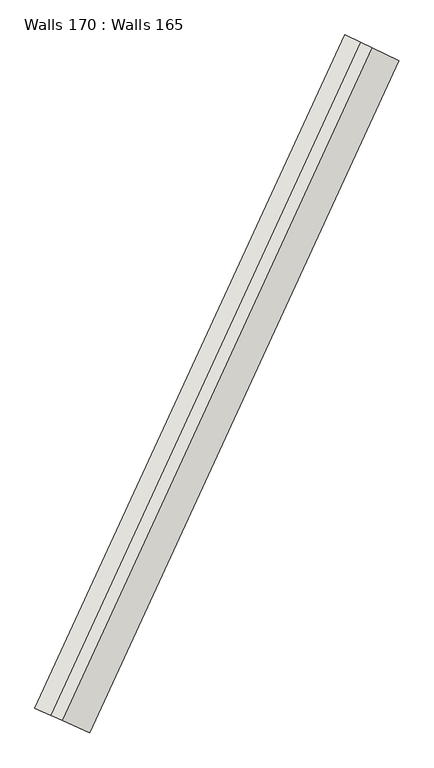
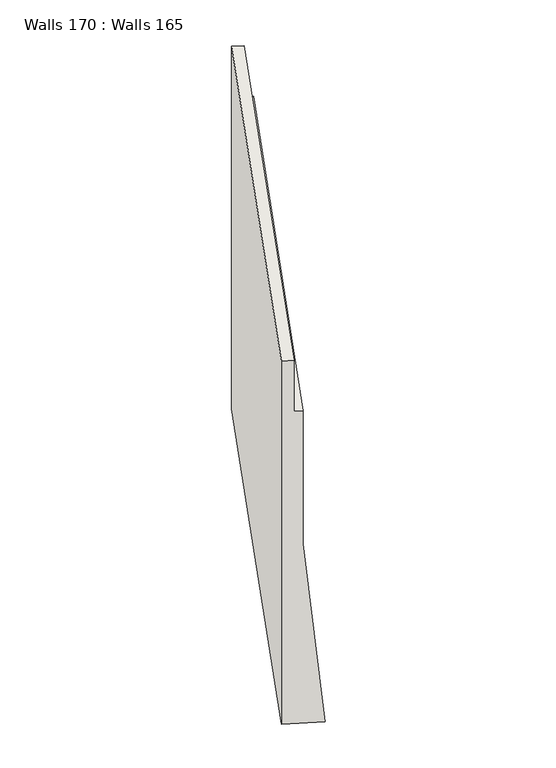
"""IFC4 building model written with IfcOpenShell, lengths in millimetres: wall geometry, Walls 170 : Walls 165."""

import ifcopenshell
import ifcopenshell.guid

model = None  # the IFC model being written
_history = None  # IfcOwnerHistory: only IFC2X3 demands one
_inside = {}  # id of a spatial element -> (the spatial element, [elements in it])
_under = {}  # id of a project, library or spatial element -> (it, [spatial elements below it])
_declared = {}  # id of a project -> (the project, [libraries it declares])
_typed = {}  # id of a type object -> (the type object, [elements of that type])
_made_of = {}  # id of a material, layer set ... -> (it, [elements and type objects made of it])


def new_model(schema):
    """Start an empty IFC model of exactly this schema.

    Asked for "IFC4X3", IfcOpenShell would pick the latest addendum, in which some entities
    have other attributes; the version numbers below select the first issue.
    IFC2X3 requires an IfcOwnerHistory on every rooted entity: one is made here for all.
    """
    global model, _history
    if schema == "IFC4X3":
        model = ifcopenshell.file(schema_version=(4, 3, 0, 0))
    else:
        model = ifcopenshell.file(schema=schema)
    _inside.clear()
    _under.clear()
    _declared.clear()
    _typed.clear()
    _made_of.clear()
    _history = None
    if model.schema == "IFC2X3":
        org = make("IfcOrganization", Name="unknown")
        user = make(
            "IfcPersonAndOrganization",
            ThePerson=make("IfcPerson", FamilyName="unknown"),
            TheOrganization=org,
        )
        app = make(
            "IfcApplication",
            ApplicationDeveloper=org,
            Version="unknown",
            ApplicationFullName="unknown",
            ApplicationIdentifier="unknown",
        )
        _history = make(
            "IfcOwnerHistory",
            OwningUser=user,
            OwningApplication=app,
            ChangeAction="ADDED",
            CreationDate=0,
        )
    return model


def make(cls, **values):
    """One entity of the class cls with the attributes given. An attribute that is None is left unset."""
    return model.create_entity(
        cls, **{name: value for name, value in values.items() if value is not None}
    )


def rooted(cls, **values):
    """An entity with a GlobalId (a new one), such as an element, a storey or a relation."""
    return make(cls, GlobalId=ifcopenshell.guid.new(), OwnerHistory=_history, **values)


def si_unit(unit_type, name, prefix=None):
    """IfcSIUnit, for example si_unit("LENGTHUNIT", "METRE", prefix="MILLI")."""
    return make("IfcSIUnit", UnitType=unit_type, Prefix=prefix, Name=name)


def assignment(units):
    """IfcUnitAssignment: the units of a project."""
    return None if units is None else make("IfcUnitAssignment", Units=units)


def point(xyz):
    """IfcCartesianPoint."""
    return None if xyz is None else make("IfcCartesianPoint", Coordinates=xyz)


def direction(xyz):
    """IfcDirection."""
    return None if xyz is None else make("IfcDirection", DirectionRatios=xyz)


def frame(location, z_axis=None, x_axis=None):
    """IfcAxis2Placement3D, a coordinate frame: its origin and axes. An axis left out is left unset."""
    return make(
        "IfcAxis2Placement3D",
        Location=point(location),
        Axis=direction(z_axis),
        RefDirection=direction(x_axis),
    )


def origin():
    """The frame at (0, 0, 0) with its axes left unset."""
    return frame((0.0, 0.0, 0.0))


def place(relative_to, where):
    """IfcLocalPlacement: puts the frame where relative to a parent placement (None: the world)."""
    return make(
        "IfcLocalPlacement", PlacementRelTo=relative_to, RelativePlacement=where
    )


def context(
    kind, dimensions, precision=None, world=None, true_north=None, identifier=None
):
    """IfcGeometricRepresentationContext, for example the 3D "Model" context."""
    return make(
        "IfcGeometricRepresentationContext",
        ContextIdentifier=identifier,
        ContextType=kind,
        CoordinateSpaceDimension=dimensions,
        Precision=precision,
        WorldCoordinateSystem=world,
        TrueNorth=true_north,
    )


def project(units=None, contexts=None):
    """IfcProject with its units and contexts."""
    return rooted(
        "IfcProject",
        Name="project",
        RepresentationContexts=contexts,
        UnitsInContext=assignment(units),
    )


def spatial(cls, under=None, at=None, **own):
    """A site, building, storey or space (cls), placed at a placement, below another one or the project."""
    s = rooted(cls, ObjectPlacement=at, **own)
    if under is not None:
        _under.setdefault(under.id(), (under, []))[1].append(s)
    return s


def shape(context_of_items, identifier, shape_type, items):
    """IfcShapeRepresentation: the items that make up one representation, for example the "Body"."""
    return make(
        "IfcShapeRepresentation",
        ContextOfItems=context_of_items,
        RepresentationIdentifier=identifier,
        RepresentationType=shape_type,
        Items=items,
    )


def source(mapping_origin, context_of_items, identifier, shape_type, items):
    """IfcRepresentationMap: a shape defined once, which mapped items show again and again."""
    return make(
        "IfcRepresentationMap",
        MappingOrigin=mapping_origin,
        MappedRepresentation=shape(context_of_items, identifier, shape_type, items),
    )


def transform(
    local_origin,
    x_axis=None,
    y_axis=None,
    z_axis=None,
    scale=None,
    scale2=None,
    scale3=None,
    uniform=True,
):
    """IfcCartesianTransformationOperator3D, or its non-uniform kind. x_axis, y_axis, z_axis: its Axis1, 2, 3."""
    if uniform:
        return make(
            "IfcCartesianTransformationOperator3D",
            Axis1=direction(x_axis),
            Axis2=direction(y_axis),
            LocalOrigin=point(local_origin),
            Scale=scale,
            Axis3=direction(z_axis),
        )
    return make(
        "IfcCartesianTransformationOperator3DnonUniform",
        Axis1=direction(x_axis),
        Axis2=direction(y_axis),
        LocalOrigin=point(local_origin),
        Scale=scale,
        Axis3=direction(z_axis),
        Scale2=scale2,
        Scale3=scale3,
    )


def mapped(mapping_source, mapping_target):
    """IfcMappedItem: shows the shape of a source again, moved by a transform."""
    return make(
        "IfcMappedItem", MappingSource=mapping_source, MappingTarget=mapping_target
    )


def made_of(thing, what):
    """Note that an element or type object is made of a material, layer set ...; save() writes the relation."""
    if what is not None:
        _made_of.setdefault(what.id(), (what, []))[1].append(thing)
    return thing


def element(
    cls,
    number,
    at=None,
    inside=None,
    cuts=None,
    type_object=None,
    material=None,
    context=None,
    identifier="Body",
    shape_type=None,
    held_by="IfcProductDefinitionShape",
    body=None,
    shapes=None,
    **own,
):
    """One element of the class cls, such as IfcWall. Its Tag is "e" and its number.

    at: its placement. inside: the storey or other place that contains it. cuts: it is an
    opening in that element (IfcRelVoidsElement). A single representation is given by context,
    identifier, shape_type and body (its items); several are given by shapes. held_by: the class
    of the entity that holds the representations. save() writes the other relations.
    """
    e = rooted(cls, Tag="e%d" % number, ObjectPlacement=at, **own)
    if body is not None:
        shapes = [shape(context, identifier, shape_type, body)]
    if shapes is not None:
        e.Representation = make(held_by, Representations=shapes)
    if inside is not None:
        _inside.setdefault(inside.id(), (inside, []))[1].append(e)
    if cuts is not None:
        rooted(
            "IfcRelVoidsElement", RelatingBuildingElement=cuts, RelatedOpeningElement=e
        )
    if type_object is not None:
        _typed.setdefault(type_object.id(), (type_object, []))[1].append(e)
    return made_of(e, material)


def aggregate(whole, parts):
    """IfcRelAggregates: a whole, such as a stair, and the parts it consists of."""
    return rooted("IfcRelAggregates", RelatingObject=whole, RelatedObjects=parts)


def save(model, path):
    """Write the relations noted so far, then the file.

    IfcRelAggregates (storeys below a building ...), IfcRelContainedInSpatialStructure (elements
    in a storey), IfcRelDefinesByType, IfcRelAssociatesMaterial and IfcRelDeclares: one each for
    every whole, place, type object, material and project.
    """
    for whole, parts in _under.values():
        aggregate(whole, parts)
    for where, things in _inside.values():
        rooted(
            "IfcRelContainedInSpatialStructure",
            RelatedElements=things,
            RelatingStructure=where,
        )
    for kind, things in _typed.values():
        rooted("IfcRelDefinesByType", RelatedObjects=things, RelatingType=kind)
    for what, things in _made_of.values():
        rooted("IfcRelAssociatesMaterial", RelatedObjects=things, RelatingMaterial=what)
    for by, libraries in _declared.values():
        rooted("IfcRelDeclares", RelatingContext=by, RelatedDefinitions=libraries)
    model.write(path)


def plane_surface(at):
    """IfcPlane: the flat surface through the origin of the frame at, square to its z axis."""
    return make("IfcPlane", Position=at)


def spline_curve(degree, points, multiplicities, knots, weights=None):
    """IfcBSplineCurveWithKnots; with weights, IfcRationalBSplineCurveWithKnots."""
    own = dict(
        Degree=degree,
        ControlPointsList=[point(p) for p in points],
        CurveForm="UNSPECIFIED",
        ClosedCurve=False,
        SelfIntersect=False,
        KnotMultiplicities=multiplicities,
        Knots=knots,
        KnotSpec="UNSPECIFIED",
    )
    if weights is None:
        return make("IfcBSplineCurveWithKnots", **own)
    return make("IfcRationalBSplineCurveWithKnots", WeightsData=weights, **own)


def spline_surface(u_degree, v_degree, points, u_multiplicities, v_multiplicities, u_knots, v_knots, weights=None):
    """IfcBSplineSurfaceWithKnots; with weights, IfcRationalBSplineSurfaceWithKnots. points: one row for each step in u."""
    own = dict(
        UDegree=u_degree,
        VDegree=v_degree,
        ControlPointsList=[[point(p) for p in row] for row in points],
        SurfaceForm="UNSPECIFIED",
        UClosed=False,
        VClosed=False,
        SelfIntersect=False,
        UMultiplicities=u_multiplicities,
        VMultiplicities=v_multiplicities,
        UKnots=u_knots,
        VKnots=v_knots,
        KnotSpec="UNSPECIFIED",
    )
    if weights is None:
        return make("IfcBSplineSurfaceWithKnots", **own)
    return make("IfcRationalBSplineSurfaceWithKnots", WeightsData=weights, **own)


def advanced_brep(points, edges, surfaces, faces):
    """IfcAdvancedBrep: a solid bounded by faces that lie on surfaces and meet in shared edges.

    An edge is (start, end): straight between two places in points (the first is 0);
    or (start, end, curve); or (start, end, curve, False) where it runs against its curve.
    A face is (place in surfaces, loops), or (place, loops, False) where it looks against
    its surface's normal. A loop lists edges by number (the first is 1), with a minus sign
    where the edge is run from its end to its start. The first loop is the outer one.
    """
    corners = [point(p) for p in points]
    vertices = [make("IfcVertexPoint", VertexGeometry=c) for c in corners]
    made = []
    for start, end, *more in edges:
        made.append(
            make(
                "IfcEdgeCurve",
                EdgeStart=vertices[start],
                EdgeEnd=vertices[end],
                EdgeGeometry=more[0] if more else make("IfcPolyline", Points=[corners[start], corners[end]]),
                SameSense=more[1] if len(more) > 1 else True,
            )
        )
    hull = []
    for where, loops, *sense in faces:
        bounds = []
        for j, loop in enumerate(loops):
            ring = [make("IfcOrientedEdge", EdgeElement=made[abs(k) - 1], Orientation=k > 0) for k in loop]
            bounds.append(
                make(
                    "IfcFaceOuterBound" if j == 0 else "IfcFaceBound",
                    Bound=make("IfcEdgeLoop", EdgeList=ring),
                    Orientation=True,
                )
            )
        hull.append(make("IfcAdvancedFace", Bounds=bounds, FaceSurface=surfaces[where], SameSense=sense[0] if sense else True))
    return make("IfcAdvancedBrep", Outer=make("IfcClosedShell", CfsFaces=hull))


def walls_170_walls_165_357c1ca6(model_context):
    return source(origin(), model_context, "Body", "AdvancedBrep", [
        advanced_brep(
        [(203750.5616119, 95700.7978443, 645990.0), (204066.1829613, 95549.5260234, 642490.0), (203434.9402625, 95852.0696652, 642490.0), (203434.9402625, 95852.0696652, 649580.0), (203615.2953193, 95765.6286247, 649580.0), (203615.2953193, 95765.6286247, 648580.0), (203750.5616119, 95700.7978443, 648580.0), (200115.3418077, 87808.9428724, 645890.0), (200115.3418077, 87808.9428724, 648490.0), (199978.1599975, 87869.6095068, 648490.0), (199978.1599975, 87869.6095068, 649490.0), (199795.2509171, 87950.4983526, 649490.0), (199795.2509171, 87950.4983526, 642390.0), (200435.4326983, 87667.3873923, 642390.0)],
        [
            (0, 1),
            (1, 2),
            (2, 3),
            (3, 4),
            (4, 5),
            (5, 6),
            (6, 0),
            (7, 8),
            (8, 9),
            (9, 10),
            (10, 11),
            (11, 12),
            (12, 13),
            (13, 7),
            (13, 1, spline_curve(3, [(200435.4326983, 87667.3873923, 642390.0), (201605.443962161, 90313.054363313, 642423.333332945), (202815.882416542, 92940.842835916, 642456.666667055), (204066.1829613, 95549.5260234, 642490.0)], [4, 4], [0.0, 28.491914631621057])),
            (0, 7, spline_curve(3, [(203750.5616119, 95700.7978443, 645990.0), (202498.721837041, 93088.898866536, 645956.666667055), (201286.793304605, 90457.871109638, 645923.333332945), (200115.3418077, 87808.9428724, 645890.0)], [4, 4], [0.0, 28.491914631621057])),
            (12, 2, spline_curve(3, [(199795.2509171, 87950.4983526, 642390.0), (200968.14264711, 90602.687855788, 642423.333333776), (202181.561257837, 93236.954898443, 642456.666666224), (203434.9402625, 95852.0696652, 642490.0)], [4, 4], [0.0, 28.5094583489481])),
            (11, 3, spline_curve(3, [(199795.2509171, 87950.4983526, 649490.0), (200968.142647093, 90602.687855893, 649519.999999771), (202181.561258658, 93236.954897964, 649550.000000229), (203434.9402625, 95852.0696652, 649580.0)], [4, 4], [0.0, 28.544361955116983])),
            (10, 4, spline_curve(3, [(199978.1599975, 87869.6095068, 649490.0), (201150.228737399, 90519.935429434, 649520.00000041), (202362.795874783, 93152.351451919, 649549.99999959), (203615.2953193, 95765.6286247, 649580.0)], [4, 4], [0.0, 28.53416243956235])),
            (8, 6, spline_curve(3, [(200115.3418077, 87808.9428724, 648490.0), (201286.793304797, 90457.871109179, 648519.999999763), (202498.721837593, 93088.898867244, 648550.000000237), (203750.5616119, 95700.7978443, 648580.0)], [4, 4], [0.0, 28.516618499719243])),
            (5, 9, spline_curve(3, [(203615.2953193, 95765.6286247, 648580.0), (202362.79587481, 93152.351451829, 648550.000000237), (201150.228737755, 90519.935429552, 648519.999999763), (199978.1599975, 87869.6095068, 648490.0)], [4, 4], [0.0, 28.516618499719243])),
        ],
        [
            plane_surface(frame((203666.8253355, 95740.9311845, 646755.7142857), z_axis=(0.43220520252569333, 0.9017752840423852, 0.0), x_axis=(-0.9017752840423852, 0.43220520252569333, 0.0))),
            plane_surface(frame((200030.4197347, 87846.498408, 646661.4285714), z_axis=(-0.40445061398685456, -0.91455983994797, 0.0), x_axis=(0.09100068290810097, -0.04024371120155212, -0.9950373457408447))),
            spline_surface(3, 3, [[(200115.3418077, 87808.9428724, 645890.0), (201286.793304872, 90457.871109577, 645923.333333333), (202498.72183725, 93088.898866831, 645956.666666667), (203750.5616119, 95700.7978443, 645990.0)], [(200222.038771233, 87761.757712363, 644723.333333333), (201393.010190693, 90409.598860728, 644756.666666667), (202604.442030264, 93039.546856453, 644790.0), (203855.768728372, 95650.373904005, 644823.333333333)], [(200328.735734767, 87714.572552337, 643556.666666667), (201499.227076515, 90361.326611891, 643590.0), (202710.162223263, 92990.194846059, 643623.333333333), (203960.975844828, 95599.949963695, 643656.666666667)], [(200435.4326983, 87667.3873923, 642390.0), (201605.443962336, 90313.054363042, 642423.333333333), (202815.882416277, 92940.842835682, 642456.666666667), (204066.1829613, 95549.5260234, 642490.0)]], [4, 4], [4, 4], [0.0, 11.540210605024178], [0.0, 28.491914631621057]),
            spline_surface(3, 3, [[(200435.4326983, 87667.3873923, 642390.0), (201605.443962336, 90313.054363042, 642423.333333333), (202815.882416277, 92940.842835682, 642456.666666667), (204066.1829613, 95549.5260234, 642490.0)], [(200222.038771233, 87761.757712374, 642390.0), (201393.010190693, 90409.59886074, 642423.333333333), (202604.442030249, 93039.546856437, 642456.666666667), (203855.768728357, 95650.373903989, 642490.0)], [(200008.644844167, 87856.128032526, 642390.0), (201180.57641905, 90506.143358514, 642423.333333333), (202393.001644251, 93138.250877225, 642456.666666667), (203645.354495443, 95751.221784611, 642490.0)], [(199795.2509171, 87950.4983526, 642390.0), (200968.142647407, 90602.687856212, 642423.333333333), (202181.561258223, 93236.95489798, 642456.666666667), (203434.9402625, 95852.0696652, 642490.0)]], [4, 4], [4, 4], [0.0, 2.2965697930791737], [0.0, 28.5094583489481]),
            spline_surface(3, 3, [[(199795.2509171, 87950.4983526, 642390.0), (200968.142647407, 90602.687856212, 642423.333333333), (202181.561258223, 93236.95489798, 642456.666666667), (203434.9402625, 95852.0696652, 642490.0)], [(199795.2509171, 87950.4983526, 644756.666666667), (200968.142647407, 90602.687856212, 644788.888888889), (202181.561258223, 93236.95489798, 644821.111111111), (203434.9402625, 95852.0696652, 644853.333333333)], [(199795.2509171, 87950.4983526, 647123.333333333), (200968.142647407, 90602.687856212, 647154.444444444), (202181.561258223, 93236.95489798, 647185.555555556), (203434.9402625, 95852.0696652, 647216.666666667)], [(199795.2509171, 87950.4983526, 649490.0), (200968.142647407, 90602.687856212, 649520.0), (202181.561258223, 93236.95489798, 649550.0), (203434.9402625, 95852.0696652, 649580.0)]], [4, 4], [4, 4], [0.0, 23.277559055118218], [0.0, 28.544361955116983]),
            spline_surface(3, 3, [[(199795.2509171, 87950.4983526, 649490.0), (200968.142647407, 90602.687856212, 649520.0), (202181.561258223, 93236.95489798, 649550.0), (203434.9402625, 95852.0696652, 649580.0)], [(199856.220610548, 87923.535404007, 649490.0), (201028.838010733, 90575.103714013, 649520.0), (202241.972797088, 93208.753749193, 649550.0), (203495.058614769, 95823.255985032, 649580.0)], [(199917.190304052, 87896.572455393, 649490.0), (201089.533374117, 90547.519571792, 649520.0), (202302.384335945, 93180.552600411, 649550.0), (203555.176967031, 95794.442304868, 649580.0)], [(199978.1599975, 87869.6095068, 649490.0), (201150.228737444, 90519.935429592, 649520.0), (202362.79587481, 93152.351451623, 649550.0), (203615.2953193, 95765.6286247, 649580.0)]], [4, 4], [4, 4], [0.0, 0.6561627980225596], [0.0, 28.53416243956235]),
            spline_surface(3, 3, [[(199978.1599975, 87869.6095068, 648490.0), (201150.228737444, 90519.935429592, 648520.0), (202362.79587481, 93152.351451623, 648550.0), (203615.2953193, 95765.6286247, 648580.0)], [(200023.887267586, 87849.387295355, 648490.0), (201195.750259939, 90499.247322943, 648520.0), (202408.104528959, 93131.200590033, 648550.0), (203660.384083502, 95744.018364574, 648580.0)], [(200069.614537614, 87829.165083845, 648490.0), (201241.271782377, 90478.559216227, 648520.0), (202453.413183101, 93110.049728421, 648550.0), (203705.472847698, 95722.408104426, 648580.0)], [(200115.3418077, 87808.9428724, 648490.0), (201286.793304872, 90457.871109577, 648520.0), (202498.72183725, 93088.898866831, 648550.0), (203750.5616119, 95700.7978443, 648580.0)]], [4, 4], [4, 4], [0.0, 0.4921220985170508], [0.0, 28.516618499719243]),
            spline_surface(3, 3, [[(199978.1599975, 87869.6095068, 649490.0), (201150.228737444, 90519.935429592, 649520.0), (202362.79587481, 93152.351451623, 649550.0), (203615.2953193, 95765.6286247, 649580.0)], [(199978.1599975, 87869.6095068, 649156.666666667), (201150.228737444, 90519.935429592, 649186.666666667), (202362.79587481, 93152.351451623, 649216.666666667), (203615.2953193, 95765.6286247, 649246.666666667)], [(199978.1599975, 87869.6095068, 648823.333333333), (201150.228737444, 90519.935429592, 648853.333333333), (202362.79587481, 93152.351451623, 648883.333333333), (203615.2953193, 95765.6286247, 648913.333333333)], [(199978.1599975, 87869.6095068, 648490.0), (201150.228737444, 90519.935429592, 648520.0), (202362.79587481, 93152.351451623, 648550.0), (203615.2953193, 95765.6286247, 648580.0)]], [4, 4], [4, 4], [0.0, 3.280839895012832], [0.0, 28.52413733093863]),
            spline_surface(3, 3, [[(200115.3418077, 87808.9428724, 648490.0), (201286.793304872, 90457.871109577, 648520.0), (202498.72183725, 93088.898866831, 648550.0), (203750.5616119, 95700.7978443, 648580.0)], [(200115.3418077, 87808.9428724, 647623.333333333), (201286.793304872, 90457.871109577, 647654.444444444), (202498.72183725, 93088.898866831, 647685.555555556), (203750.5616119, 95700.7978443, 647716.666666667)], [(200115.3418077, 87808.9428724, 646756.666666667), (201286.793304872, 90457.871109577, 646788.888888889), (202498.72183725, 93088.898866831, 646821.111111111), (203750.5616119, 95700.7978443, 646853.333333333)], [(200115.3418077, 87808.9428724, 645890.0), (201286.793304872, 90457.871109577, 645923.333333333), (202498.72183725, 93088.898866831, 645956.666666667), (203750.5616119, 95700.7978443, 645990.0)]], [4, 4], [4, 4], [0.0, 8.513779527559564], [0.0, 28.509274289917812]),
        ],
        [
            (0, [[1, 2, 3, 4, 5, 6, 7]]),
            (1, [[8, 9, 10, 11, 12, 13, 14]]),
            (2, [[-14, 15, -1, 16]]),
            (3, [[-13, 17, -2, -15]]),
            (4, [[-12, 18, -3, -17]]),
            (5, [[-11, 19, -4, -18]]),
            (6, [[-9, 20, -6, 21]]),
            (7, [[-10, -21, -5, -19]]),
            (8, [[-8, -16, -7, -20]]),
        ],
    ),
    ])


if __name__ == "__main__":
    model = new_model("IFC4")
    model_context = context("Model", 3, world=origin())
    ifc_project = project(units=[si_unit("LENGTHUNIT", "METRE", prefix="MILLI")], contexts=[model_context])
    site = spatial("IfcSite", under=ifc_project)
    building = spatial("IfcBuilding", under=site)
    placement = place(None, origin())
    walls_170_walls_165_shape = walls_170_walls_165_357c1ca6(model_context)
    element("IfcWall", 1, ObjectType="Walls 170 : Walls 165", at=placement, inside=building, context=model_context, shape_type="MappedRepresentation", body=[
        mapped(walls_170_walls_165_shape, transform((0.0, 0.0, 0.0), x_axis=(1.0, 0.0, 0.0), y_axis=(0.0, 1.0, 0.0), z_axis=(0.0, 0.0, 1.0))),
    ])
    save(model, "model.ifc")
